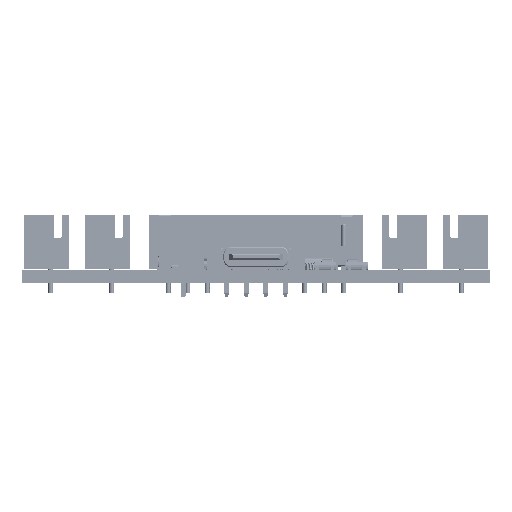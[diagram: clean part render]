
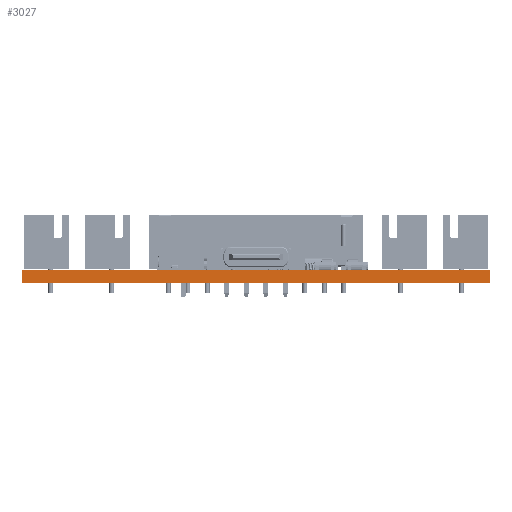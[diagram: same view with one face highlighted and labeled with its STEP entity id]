
A CAD part, left-side view. The second image highlights one B-rep face of the part: STEP entity #3027.
In plain terms, the highlighted planar face has unit normal (-1, 0, 0).
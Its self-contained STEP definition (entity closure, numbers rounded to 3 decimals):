
#271 = EDGE_CURVE('',#272,#274,#276,.T.);
#272 = VERTEX_POINT('',#273);
#273 = CARTESIAN_POINT('',(0.013,-0.013,0.));
#274 = VERTEX_POINT('',#275);
#275 = CARTESIAN_POINT('',(0.013,-0.013,
    1.6));
#276 = LINE('',#277,#278);
#277 = CARTESIAN_POINT('',(0.013,-0.013,0.));
#278 = VECTOR('',#279,1.);
#279 = DIRECTION('',(0.,0.,1.));
#304 = VERTEX_POINT('',#305);
#305 = CARTESIAN_POINT('',(0.013,-59.987,
    1.6));
#311 = EDGE_CURVE('',#312,#304,#314,.T.);
#312 = VERTEX_POINT('',#313);
#313 = CARTESIAN_POINT('',(0.013,-59.987,0.));
#314 = LINE('',#315,#316);
#315 = CARTESIAN_POINT('',(0.013,-59.987,0.));
#316 = VECTOR('',#317,1.);
#317 = DIRECTION('',(0.,0.,1.));
#335 = EDGE_CURVE('',#312,#272,#336,.T.);
#336 = LINE('',#337,#338);
#337 = CARTESIAN_POINT('',(0.013,-59.987,0.));
#338 = VECTOR('',#339,1.);
#339 = DIRECTION('',(0.,1.,0.));
#1684 = EDGE_CURVE('',#304,#274,#1685,.T.);
#1685 = LINE('',#1686,#1687);
#1686 = CARTESIAN_POINT('',(0.013,-59.987,
    1.6));
#1687 = VECTOR('',#1688,1.);
#1688 = DIRECTION('',(0.,1.,0.));
#3027 = ADVANCED_FACE('',(#3028),#3034,.T.);
#3028 = FACE_BOUND('',#3029,.T.);
#3029 = EDGE_LOOP('',(#3030,#3031,#3032,#3033));
#3030 = ORIENTED_EDGE('',*,*,#311,.T.);
#3031 = ORIENTED_EDGE('',*,*,#1684,.T.);
#3032 = ORIENTED_EDGE('',*,*,#271,.F.);
#3033 = ORIENTED_EDGE('',*,*,#335,.F.);
#3034 = PLANE('',#3035);
#3035 = AXIS2_PLACEMENT_3D('',#3036,#3037,#3038);
#3036 = CARTESIAN_POINT('',(0.013,-59.987,0.));
#3037 = DIRECTION('',(-1.,0.,0.));
#3038 = DIRECTION('',(0.,1.,0.));
